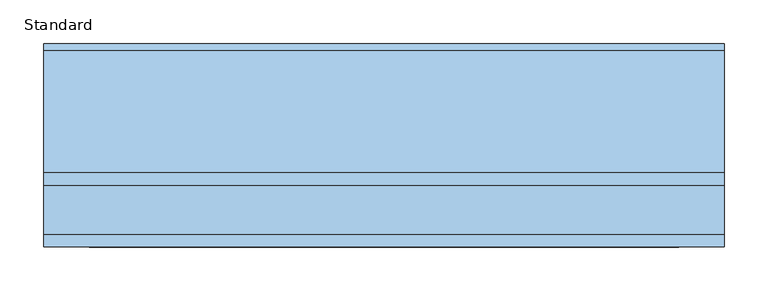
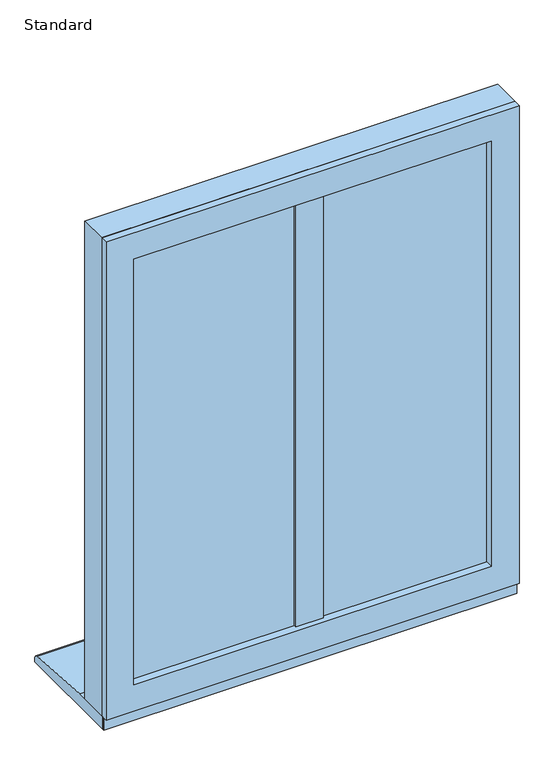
"""IFC4 building model written with IfcOpenShell, lengths in millimetres: window geometry, SMARTS_Alitherm600 : Standard."""

from ifc_helpers import new_model, si_unit, point, frame, frame_2d, origin, place, context, project, spatial, polyline, circle_curve, trimmed, segment, composite_curve, outline, extrude, faceted_brep, source, transform, mapped, element, save


def standard_5fa67402(model_context):
    return source(origin(), model_context, "Body", "SolidModel", [
        extrude(outline(polyline([(-9.4, 102.8298432), (9.4, 102.8298432), (9.4, 47.2458572), (-9.4, 47.2458572), (-9.4, 102.8298432)])), frame((0.0, 0.0, 670.8979117), z_axis=(0.0, 0.0, 1.0), x_axis=(1.0, 0.0, 0.0)), (0.0, 0.0, 1.0), 883.2041766),
        extrude(outline(polyline([(-25.9020883, 47.2458572), (25.9020883, 47.2458572), (25.9020883, 43.2798432), (-25.9020883, 43.2798432), (-25.9020883, 47.2458572)])), frame((0.0, 0.0, 687.4), z_axis=(0.0, 0.0, 1.0), x_axis=(1.0, 0.0, 0.0)), (0.0, 0.0, 1.0), 850.2),
        extrude(outline(polyline([(-352.6, 77.7798432), (-11.0, 77.7798432), (-11.0, 73.7798432), (-352.6, 73.7798432), (-352.6, 77.7798432)])), frame((0.0, 0.0, 672.4), z_axis=(0.0, 0.0, 1.0), x_axis=(1.0, 0.0, 0.0)), (0.0, 0.0, 1.0), 880.2),
        extrude(outline(polyline([(-352.6, 57.7798432), (-11.0, 57.7798432), (-11.0, 53.7798432), (-352.6, 53.7798432), (-352.6, 57.7798432)])), frame((0.0, 0.0, 672.4), z_axis=(0.0, 0.0, 1.0), x_axis=(1.0, 0.0, 0.0)), (0.0, 0.0, 1.0), 880.2),
        extrude(outline(polyline([(1552.6, -352.6), (672.4, -352.6), (672.4, -11.0), (1552.6, -11.0), (1552.6, -352.6)]), holes=[polyline([(1542.6, -21.0), (682.4, -21.0), (682.4, -342.6), (1542.6, -342.6), (1542.6, -21.0)])]), frame((0.0, 57.7798432, 0.0), z_axis=(0.0, 1.0, 0.0), x_axis=(0.0, 0.0, 1.0)), (0.0, 0.0, 1.0), 16.0),
        faceted_brep([(-349.4160653, 102.7798432, 1549.4160653), (-337.2339746, 81.6798432, 1537.2339746), (-337.2339746, 81.6798432, 687.7660254), (-349.4160653, 102.7798432, 675.5839347), (-26.3660254, 81.6798432, 687.7660254), (-14.1839347, 102.7798432, 675.5839347), (-26.3660254, 81.6798432, 1537.2339746), (-14.1839347, 102.7798432, 1549.4160653), (-9.5, 81.6798432, 1554.1), (-9.5, 102.7798432, 1554.1), (-354.1, 102.7798432, 1554.1), (-354.1, 81.6798432, 1554.1), (-354.1, 102.7798432, 670.9), (-354.1, 81.6798432, 670.9), (-9.5, 102.7798432, 670.9), (-9.5, 81.6798432, 670.9)], [[[0, 1, 2, 3]], [[3, 2, 4, 5]], [[5, 4, 6, 7]], [[7, 6, 1, 0]], [[8, 9, 10, 11]], [[11, 10, 12, 13]], [[13, 12, 14, 15]], [[9, 14, 12, 10], [0, 3, 5, 7]], [[15, 14, 9, 8]], [[11, 13, 15, 8], [6, 4, 2, 1]]]),
        extrude(outline(polyline([(1590.0, 390.0), (1590.0, -390.0), (635.0, -390.0), (635.0, 390.0), (1590.0, 390.0)]), holes=[polyline([(670.85, 354.15), (670.85, -354.15), (1554.15, -354.15), (1554.15, 354.15), (670.85, 354.15)])]), frame((0.0, 47.2798427, 0.0), z_axis=(0.0, 1.0, 0.0), x_axis=(0.0, 0.0, 1.0)), (0.0, 0.0, 1.0), 55.5500006),
        extrude(outline(polyline([(1590.0, 390.0), (1590.0, -390.0), (635.0, -390.0), (635.0, 390.0), (1590.0, 390.0)]), holes=[polyline([(687.35, 337.65), (687.35, -337.65), (1537.65, -337.65), (1537.65, 337.65), (687.35, 337.65)])]), frame((0.0, 32.8298432, 0.0), z_axis=(0.0, 1.0, 0.0), x_axis=(0.0, 0.0, 1.0)), (0.0, 0.0, 1.0), 14.4499994),
        extrude(outline(polyline([(11.0, 77.7798432), (352.6, 77.7798432), (352.6, 73.7798432), (11.0, 73.7798432), (11.0, 77.7798432)])), frame((0.0, 0.0, 672.4), z_axis=(0.0, 0.0, 1.0), x_axis=(1.0, 0.0, 0.0)), (0.0, 0.0, 1.0), 880.2),
        extrude(outline(polyline([(11.0, 57.7798432), (352.6, 57.7798432), (352.6, 53.7798432), (11.0, 53.7798432), (11.0, 57.7798432)])), frame((0.0, 0.0, 672.4), z_axis=(0.0, 0.0, 1.0), x_axis=(1.0, 0.0, 0.0)), (0.0, 0.0, 1.0), 880.2),
        extrude(outline(polyline([(1552.6, 11.0), (672.4, 11.0), (672.4, 352.6), (1552.6, 352.6), (1552.6, 11.0)]), holes=[polyline([(1542.6, 342.6), (682.4, 342.6), (682.4, 21.0), (1542.6, 21.0), (1542.6, 342.6)])]), frame((0.0, 57.7798432, 0.0), z_axis=(0.0, 1.0, 0.0), x_axis=(0.0, 0.0, 1.0)), (0.0, 0.0, 1.0), 16.0),
        faceted_brep([(14.1839347, 102.7798432, 1549.4160653), (26.3660254, 81.6798432, 1537.2339746), (26.3660254, 81.6798432, 687.7660254), (14.1839347, 102.7798432, 675.5839347), (337.2339746, 81.6798432, 687.7660254), (349.4160653, 102.7798432, 675.5839347), (337.2339746, 81.6798432, 1537.2339746), (349.4160653, 102.7798432, 1549.4160653), (354.1, 81.6798432, 1554.1), (354.1, 102.7798432, 1554.1), (9.5, 102.7798432, 1554.1), (9.5, 81.6798432, 1554.1), (9.5, 102.7798432, 670.9), (9.5, 81.6798432, 670.9), (354.1, 102.7798432, 670.9), (354.1, 81.6798432, 670.9)], [[[0, 1, 2, 3]], [[3, 2, 4, 5]], [[5, 4, 6, 7]], [[7, 6, 1, 0]], [[8, 9, 10, 11]], [[11, 10, 12, 13]], [[13, 12, 14, 15]], [[9, 14, 12, 10], [0, 3, 5, 7]], [[15, 14, 9, 8]], [[11, 13, 15, 8], [6, 4, 2, 1]]]),
        extrude(outline(polyline([(390.0, 43.2798432), (390.0, 40.7798432), (-390.0, 40.7798432), (-390.0, 43.2798432), (390.0, 43.2798432)])), frame((0.0, 0.0, 610.0), z_axis=(0.0, 0.0, 1.0), x_axis=(1.0, 0.0, 0.0)), (0.0, 0.0, 1.0), 31.0),
        extrude(outline(composite_curve([segment(polyline([(265.7798432, 610.0), (43.2798432, 610.0), (43.2798432, 635.0), (118.7798432, 635.0), (258.4770891, 625.9276664)]), True, "CONTINUOUS"), segment(trimmed(circle_curve(frame_2d((257.7798432, 617.9581088)), 8.0), [point((258.4770891, 625.9276664))], [point((265.7798432, 617.9581088))], False, "CARTESIAN"), True, "CONTINUOUS"), segment(polyline([(265.7798432, 617.9581088), (265.7798432, 610.0)]), True, "CONTINUOUS")], self_intersect=False)), frame((-390.0, 0.0, 0.0), z_axis=(1.0, 0.0, 0.0), x_axis=(0.0, 1.0, 0.0)), (0.0, 0.0, 1.0), 780.0),
    ])


if __name__ == "__main__":
    model = new_model("IFC4")
    model_context = context("Model", 3, world=origin())
    ifc_project = project(units=[si_unit("LENGTHUNIT", "METRE", prefix="MILLI")], contexts=[model_context])
    site = spatial("IfcSite", under=ifc_project)
    building = spatial("IfcBuilding", under=site)
    placement = place(None, origin())
    standard_shape = standard_5fa67402(model_context)
    element("IfcWindow", 1, ObjectType="SMARTS_Alitherm600 : Standard", at=placement, inside=building, context=model_context, shape_type="MappedRepresentation", body=[
        mapped(standard_shape, transform((0.0, 0.0, 0.0), x_axis=(1.0, 0.0, 0.0), y_axis=(0.0, 1.0, 0.0), z_axis=(0.0, 0.0, 1.0))),
    ])
    save(model, "model.ifc")
